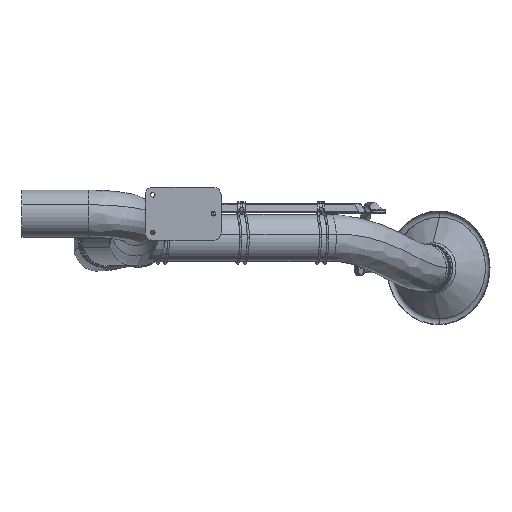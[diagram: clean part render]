
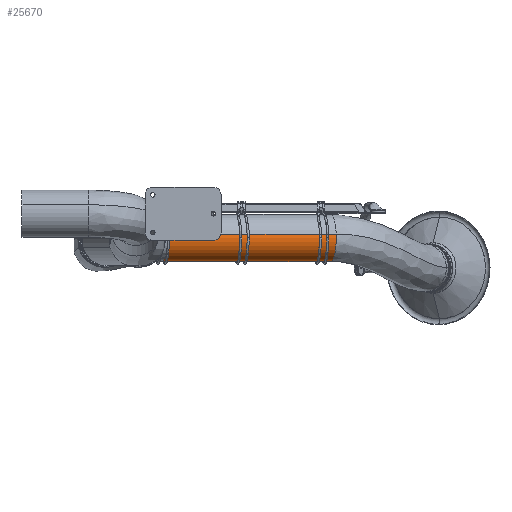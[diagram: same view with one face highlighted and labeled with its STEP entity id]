
A CAD part, left-side view. The second image highlights one B-rep face of the part: STEP entity #25670.
In plain terms, the highlighted free-form (B-spline) face has degree [3, 3] with [7, 6] control points.
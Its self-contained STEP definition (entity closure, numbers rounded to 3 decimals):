
#24574=CARTESIAN_POINT('',(836.616,-417.701,-64.));
#24575=DIRECTION('',(-0.259,0.966,0.));
#24576=DIRECTION('',(0.952,0.255,-0.168));
#24577=AXIS2_PLACEMENT_3D('',#24574,#24575,#24576);
#24582=CARTESIAN_POINT('',(896.129,-401.754,
-74.493));
#24583=CARTESIAN_POINT('',(882.901,-352.385,
-74.493));
#24584=CARTESIAN_POINT('',(856.444,-253.645,
-74.493));
#24585=CARTESIAN_POINT('',(816.758,-105.537,
-74.493));
#24586=CARTESIAN_POINT('',(790.301,-6.798,
-74.493));
#24587=CARTESIAN_POINT('',(777.073,42.572,
-74.493));
#24600=CARTESIAN_POINT('',(777.102,-433.647,
-53.507));
#24601=CARTESIAN_POINT('',(763.874,-384.278,
-53.507));
#24602=CARTESIAN_POINT('',(737.417,-285.539,
-53.507));
#24603=CARTESIAN_POINT('',(697.731,-137.43,
-53.507));
#24604=CARTESIAN_POINT('',(671.274,-38.691,
-53.507));
#24605=CARTESIAN_POINT('',(658.046,10.679,
-53.507));
#24685=CARTESIAN_POINT('',(717.559,26.625,-64.));
#24686=DIRECTION('',(-0.259,0.966,0.));
#24687=DIRECTION('',(0.952,0.255,-0.168));
#24688=AXIS2_PLACEMENT_3D('',#24685,#24686,#24687);
#25163=CARTESIAN_POINT('',(896.129,-401.754,
-74.493));
#25164=CARTESIAN_POINT('',(777.102,-433.647,
-53.507));
#25165=VERTEX_POINT('',#25163);
#25166=VERTEX_POINT('',#25164);
#25167=CARTESIAN_POINT('',(777.073,42.572,
-74.493));
#25168=CARTESIAN_POINT('',(658.046,10.679,
-53.507));
#25169=VERTEX_POINT('',#25167);
#25170=VERTEX_POINT('',#25168);
#25618=CARTESIAN_POINT('',(899.029,-410.502,
-70.604));
#25619=CARTESIAN_POINT('',(898.236,-407.539,
-70.604));
#25620=CARTESIAN_POINT('',(857.756,-256.469,
-70.604));
#25621=CARTESIAN_POINT('',(816.483,-102.436,
-70.604));
#25622=CARTESIAN_POINT('',(776.004,48.635,
-70.604));
#25623=CARTESIAN_POINT('',(775.21,51.597,
-70.604));
#25624=CARTESIAN_POINT('',(895.104,-411.553,
-108.851));
#25625=CARTESIAN_POINT('',(894.31,-408.591,
-108.851));
#25626=CARTESIAN_POINT('',(853.831,-257.52,
-108.851));
#25627=CARTESIAN_POINT('',(812.558,-103.487,
-108.851));
#25628=CARTESIAN_POINT('',(772.079,47.583,
-108.851));
#25629=CARTESIAN_POINT('',(771.285,50.546,
-108.851));
#25630=CARTESIAN_POINT('',(865.486,-419.489,
-132.07));
#25631=CARTESIAN_POINT('',(864.692,-416.527,
-132.07));
#25632=CARTESIAN_POINT('',(824.213,-265.456,
-132.07));
#25633=CARTESIAN_POINT('',(782.94,-111.424,
-132.07));
#25634=CARTESIAN_POINT('',(742.461,39.647,
-132.07));
#25635=CARTESIAN_POINT('',(741.667,42.609,
-132.07));
#25636=CARTESIAN_POINT('',(828.862,-429.303,
-125.613));
#25637=CARTESIAN_POINT('',(828.068,-426.341,
-125.613));
#25638=CARTESIAN_POINT('',(787.589,-275.27,
-125.613));
#25639=CARTESIAN_POINT('',(746.316,-121.237,
-125.613));
#25640=CARTESIAN_POINT('',(705.836,29.834,
-125.613));
#25641=CARTESIAN_POINT('',(705.043,32.796,
-125.613));
#25642=CARTESIAN_POINT('',(792.237,-439.116,
-119.156));
#25643=CARTESIAN_POINT('',(791.443,-436.154,
-119.156));
#25644=CARTESIAN_POINT('',(750.964,-285.084,
-119.156));
#25645=CARTESIAN_POINT('',(709.691,-131.051,
-119.156));
#25646=CARTESIAN_POINT('',(669.212,20.02,
-119.156));
#25647=CARTESIAN_POINT('',(668.418,22.982,
-119.156));
#25648=CARTESIAN_POINT('',(771.713,-444.616,
-87.095));
#25649=CARTESIAN_POINT('',(770.919,-441.654,
-87.095));
#25650=CARTESIAN_POINT('',(730.44,-290.583,
-87.095));
#25651=CARTESIAN_POINT('',(689.167,-136.55,
-87.095));
#25652=CARTESIAN_POINT('',(648.687,14.521,
-87.095));
#25653=CARTESIAN_POINT('',(647.894,17.483,
-87.095));
#25654=CARTESIAN_POINT('',(780.237,-442.332,
-49.659));
#25655=CARTESIAN_POINT('',(779.444,-439.37,
-49.659));
#25656=CARTESIAN_POINT('',(738.964,-288.299,
-49.659));
#25657=CARTESIAN_POINT('',(697.691,-134.266,
-49.659));
#25658=CARTESIAN_POINT('',(657.212,16.805,
-49.659));
#25659=CARTESIAN_POINT('',(656.418,19.767,
-49.659));
#25660=(BOUNDED_SURFACE()B_SPLINE_SURFACE(3,3,((#25618,#25619,#25620,#25621,
#25622,#25623),(#25624,#25625,#25626,#25627,#25628,#25629),(#25630,#25631,
#25632,#25633,#25634,#25635),(#25636,#25637,#25638,#25639,#25640,#25641),
(#25642,#25643,#25644,#25645,#25646,#25647),(#25648,#25649,#25650,#25651,#25652,
#25653),(#25654,#25655,#25656,#25657,#25658,#25659)),.UNSPECIFIED.,.F.,.F.,.F.)B_SPLINE_SURFACE_WITH_KNOTS((4,3,4),(4,1,1,4),(0.,1.,2.),(-0.02,0.,1.,
1.02),.UNSPECIFIED.)GEOMETRIC_REPRESENTATION_ITEM()RATIONAL_B_SPLINE_SURFACE((
(1.187,1.187,1.187,1.187,
1.187,1.187),(0.938,0.938,
0.938,0.938,0.938,0.938),(
0.938,0.938,0.938,0.938,
0.938,0.938),(1.187,1.187,
1.187,1.187,1.187,1.187),(
0.938,0.938,0.938,0.938,
0.938,0.938),(0.938,0.938,
0.938,0.938,0.938,0.938),(
1.187,1.187,1.187,1.187,
1.187,1.187)))REPRESENTATION_ITEM('')SURFACE());
#25661=ORIENTED_EDGE('',*,*,#25605,.F.);
#25663=ORIENTED_EDGE('',*,*,#25662,.T.);
#25665=ORIENTED_EDGE('',*,*,#25664,.T.);
#25667=ORIENTED_EDGE('',*,*,#25666,.F.);
#25668=EDGE_LOOP('',(#25661,#25663,#25665,#25667));
#25669=FACE_OUTER_BOUND('',#25668,.F.);
#24578=CIRCLE('',#24577,62.5);
#24588=B_SPLINE_CURVE_WITH_KNOTS('',3,(#24582,#24583,#24584,#24585,#24586,
#24587),.UNSPECIFIED.,.F.,.F.,(4,1,1,4),(0.,0.333,
0.667,1.),.UNSPECIFIED.);
#24606=B_SPLINE_CURVE_WITH_KNOTS('',3,(#24600,#24601,#24602,#24603,#24604,
#24605),.UNSPECIFIED.,.F.,.F.,(4,1,1,4),(0.,0.333,
0.667,1.),.UNSPECIFIED.);
#24689=CIRCLE('',#24688,62.5);
#25605=EDGE_CURVE('',#25165,#25166,#24578,.T.);
#25662=EDGE_CURVE('',#25165,#25169,#24588,.T.);
#25664=EDGE_CURVE('',#25169,#25170,#24689,.T.);
#25666=EDGE_CURVE('',#25166,#25170,#24606,.T.);
#25670=ADVANCED_FACE('',(#25669),#25660,.T.);
